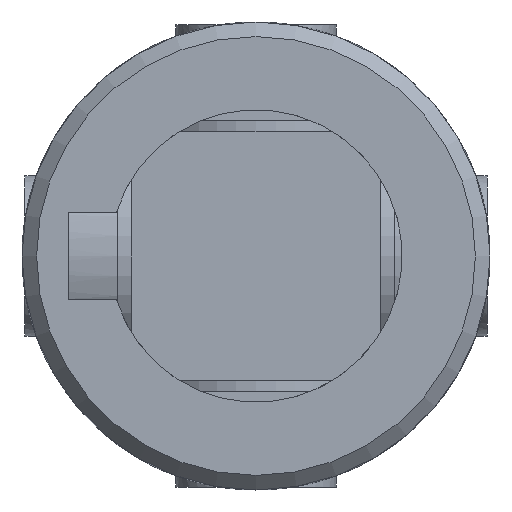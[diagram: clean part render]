
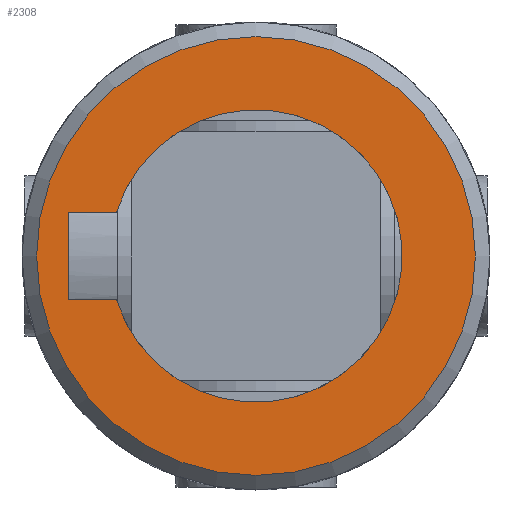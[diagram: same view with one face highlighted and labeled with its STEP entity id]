
A CAD part, front view. The second image highlights one B-rep face of the part: STEP entity #2308.
In plain terms, the highlighted planar face has unit normal (0, -1, 0).
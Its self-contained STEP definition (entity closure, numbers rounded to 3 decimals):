
#122=LINE('',#4187,#201);
#124=LINE('',#4193,#203);
#128=LINE('',#4205,#207);
#201=VECTOR('',#2978,6.);
#203=VECTOR('',#2984,3.261);
#207=VECTOR('',#2996,3.261);
#283=PLANE('',#2538);
#496=FACE_BOUND('',#783,.T.);
#599=FACE_OUTER_BOUND('',#782,.T.);
#782=EDGE_LOOP('',(#1925));
#783=EDGE_LOOP('',(#1926,#1927,#1928,#1929));
#924=CIRCLE('',#2524,10.);
#931=CIRCLE('',#2536,15.);
#1095=VERTEX_POINT('',#4184);
#1096=VERTEX_POINT('',#4186);
#1098=VERTEX_POINT('',#4192);
#1102=VERTEX_POINT('',#4203);
#1116=VERTEX_POINT('',#4300);
#1369=EDGE_CURVE('',#1096,#1095,#122,.T.);
#1372=EDGE_CURVE('',#1098,#1096,#124,.T.);
#1378=EDGE_CURVE('',#1095,#1102,#128,.T.);
#1387=EDGE_CURVE('',#1102,#1098,#924,.T.);
#1399=EDGE_CURVE('',#1116,#1116,#931,.T.);
#1925=ORIENTED_EDGE('',*,*,#1399,.F.);
#1926=ORIENTED_EDGE('',*,*,#1378,.T.);
#1927=ORIENTED_EDGE('',*,*,#1387,.T.);
#1928=ORIENTED_EDGE('',*,*,#1372,.T.);
#1929=ORIENTED_EDGE('',*,*,#1369,.T.);
#2308=ADVANCED_FACE('',(#599,#496),#283,.F.);
#2524=AXIS2_PLACEMENT_3D('',#4250,#3005,#3006);
#2536=AXIS2_PLACEMENT_3D('',#4301,#3030,#3031);
#2538=AXIS2_PLACEMENT_3D('',#4513,#3038,#3039);
#2978=DIRECTION('',(-1.,0.,0.));
#2984=DIRECTION('',(0.,0.,-1.));
#2996=DIRECTION('',(0.,0.,1.));
#3005=DIRECTION('center_axis',(0.,1.,0.));
#3006=DIRECTION('ref_axis',(-0.3,0.,0.954));
#3030=DIRECTION('center_axis',(0.,1.,0.));
#3031=DIRECTION('ref_axis',(1.,0.,0.));
#3038=DIRECTION('center_axis',(0.,1.,0.));
#3039=DIRECTION('ref_axis',(0.,0.,1.));
#4184=CARTESIAN_POINT('',(-3.,-51.,-12.8));
#4186=CARTESIAN_POINT('',(3.,-51.,-12.8));
#4187=CARTESIAN_POINT('',(1.5,-51.,-12.8));
#4192=CARTESIAN_POINT('',(3.,-51.,-9.539));
#4193=CARTESIAN_POINT('',(3.,-51.,-4.77));
#4203=CARTESIAN_POINT('',(-3.,-51.,-9.539));
#4205=CARTESIAN_POINT('',(-3.,-51.,-6.4));
#4250=CARTESIAN_POINT('Origin',(0.,-51.,0.));
#4300=CARTESIAN_POINT('',(-15.,-51.,0.));
#4301=CARTESIAN_POINT('Origin',(0.,-51.,0.));
#4513=CARTESIAN_POINT('Origin',(0.,-51.,0.));
